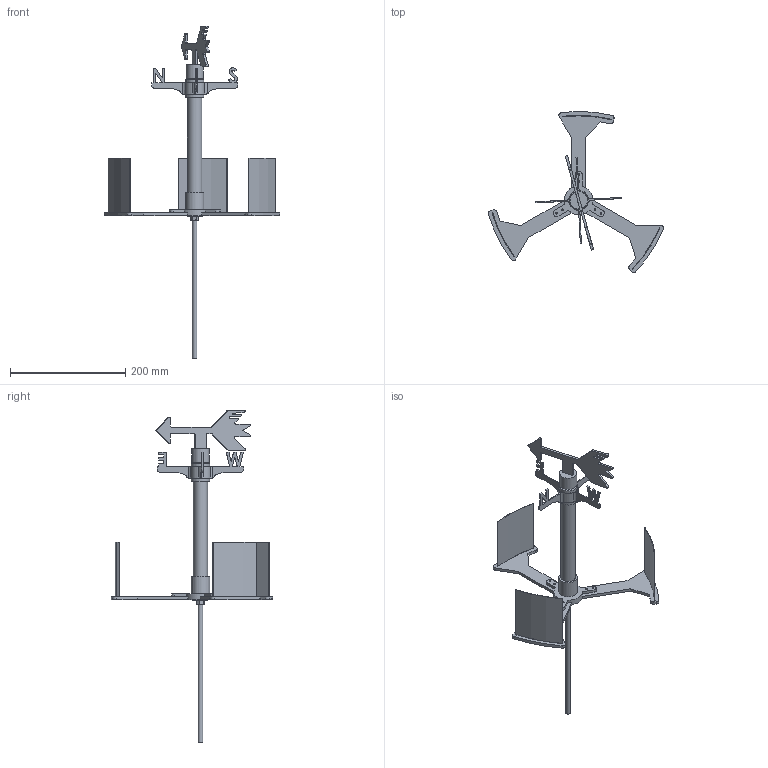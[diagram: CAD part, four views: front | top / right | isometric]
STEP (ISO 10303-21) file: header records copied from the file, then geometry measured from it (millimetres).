
FILE_DESCRIPTION (( 'STEP AP214' ), '1' );
FILE_NAME ('ter-00-0.STEP', '2018-12-16T21:30:14', ( '' ), ( '' ), 'SwSTEP 2.0', 'SolidWorks 2016', '' );
FILE_SCHEMA (( 'AUTOMOTIVE_DESIGN' ));
Length unit declared in the file: millimetre
Products named in the file (16): _6000_PART1___ _________; ter-01-2_1; ter-01-1_1; ter-00-0; ter-01-9_1; ter-01-8_1; ter-01-7_1<Obrobiona>; Nakrêtka szeœciok¹tna M8-8 Oc DIN 934_Hexagon Nut ISO - 4032 - M8 - W - N; ter-01-5_1; ter-01-6_1; ter-01-4_1; Termometr_1; ter-01-3_1; 6000___ _________; _6000_PART3___ _________; _6000_PART2___ _________
Assembly tree (29 placements, depth 3):
  ter-00-0
    ter-01-1_1
    ter-01-2_1  x3
    6000___ _________  x2
      _6000_PART1___ _________
      _6000_PART2___ _________
      _6000_PART3___ _________
    ter-01-3_1
    Termometr_1
    ter-01-4_1
    ter-01-6_1
    ter-01-5_1
    Nakrêtka szeœciok¹tna M8-8 Oc DIN 934_Hexagon Nut ISO - 4032 - M8 - W - N  x4
    ter-01-7_1<Obrobiona>
    ter-01-8_1  x3
    ter-01-9_1
Bounding box: 304.54 x 279.77 x 576.58 mm (x, y, z)
Volume: 207936.9 mm3; surface area: 199129.7 mm2
Topology: 36 solids, 36 shells, 455 faces, 1145 edges, 742 vertices
Faces by surface type: plane 215, cylinder 160, bspline 44, cone 36
Full cylindrical faces by diameter (mm): 2.851 x6, 3.137 x6, 6.8 x4, 8 x5, 8.2 x2, 9.8 x2, 10 x2, 12 x1, 13 x4, 14 x1, 14.8 x4, 15 x1, 21.2 x4, 22.6 x4, 24.6 x1, 25 x1, 25.2 x2, 26 x4, 30 x1, 32 x2, 32.5 x1, 50 x1
Entity records: 10390 total; most frequent: CARTESIAN_POINT 2557, DIRECTION 1498, ORIENTED_EDGE 1398, EDGE_CURVE 699, AXIS2_PLACEMENT_3D 546, VERTEX_POINT 489, VECTOR 406, LINE 406
